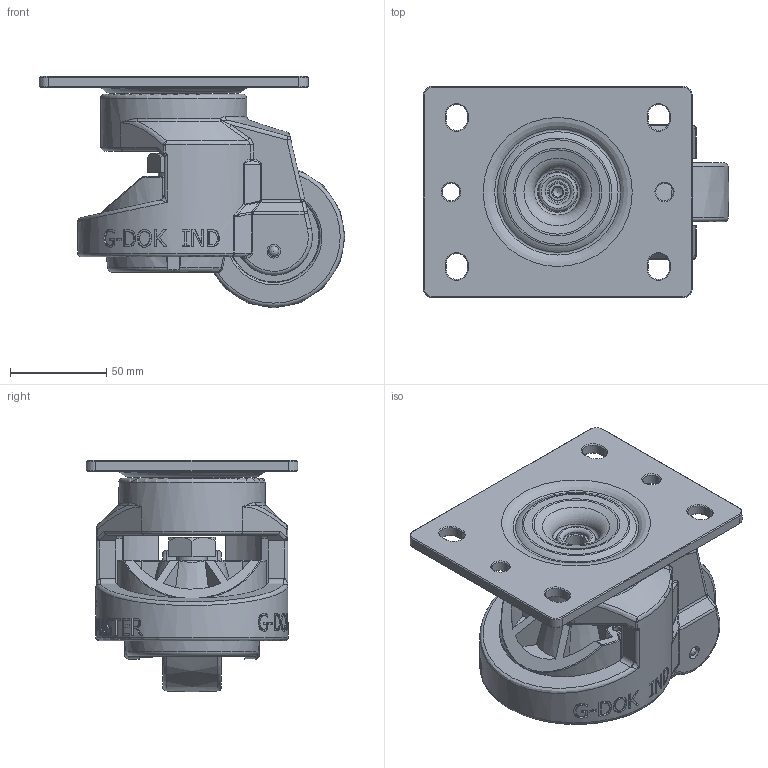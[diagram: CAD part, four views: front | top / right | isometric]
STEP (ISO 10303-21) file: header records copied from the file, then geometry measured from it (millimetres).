
FILE_DESCRIPTION(/* description */ (''),/* implementation_level */ '2;1');
FILE_NAME(/* name */ 'C:\Users\황치선\Desktop\GD-\X2\C218C815BCF8\X0\\GD-120-3D\1\1.stp',/* time_stamp */ '2015-07-08T17:58:28+09:00',/* author */ ('황치선'),/* organization */ (''),/* preprocessor_version */ 'ST-DEVELOPER v15.6',/* originating_system */ 'Autodesk Inventor 2015',/* authorisation */ '');
FILE_SCHEMA (('AUTOMOTIVE_DESIGN { 1 0 10303 214 3 1 1 }'));
Length unit declared in the file: centimetre
Products named in the file (1): 1
Bounding box: 159 x 110 x 120.45 mm (x, y, z)
Volume: 609599.4 mm3; surface area: 157864 mm2
Topology: 5 solids, 5 shells, 1003 faces, 2511 edges, 1565 vertices
Faces by surface type: plane 350, bspline 266, cylinder 207, torus 89, cone 76, sphere 15
Full cylindrical faces by diameter (mm): 3 x2, 4 x2, 5.153 x1, 6 x4, 7 x2, 9 x2, 9.3 x1, 10.7 x1, 12 x1, 12.2 x2, 13 x1, 16 x2, 20 x2, 22 x1, 25 x1, 27 x1, 29 x1, 32 x2, 40 x1, 41.6 x1, 42.4 x1, 43 x1, 44 x1, 76 x1
Entity records: 66751 total; most frequent: CARTESIAN_POINT 43818, ORIENTED_EDGE 4684, DIRECTION 4095, EDGE_CURVE 2340, AXIS2_PLACEMENT_3D 1577, VERTEX_POINT 1532, EDGE_LOOP 1210, STYLED_ITEM 1004
